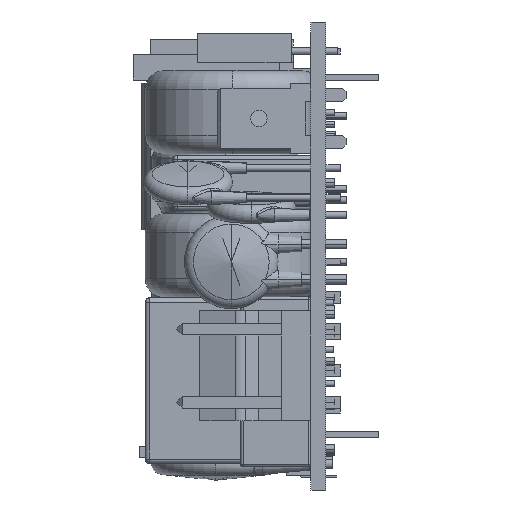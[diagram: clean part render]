
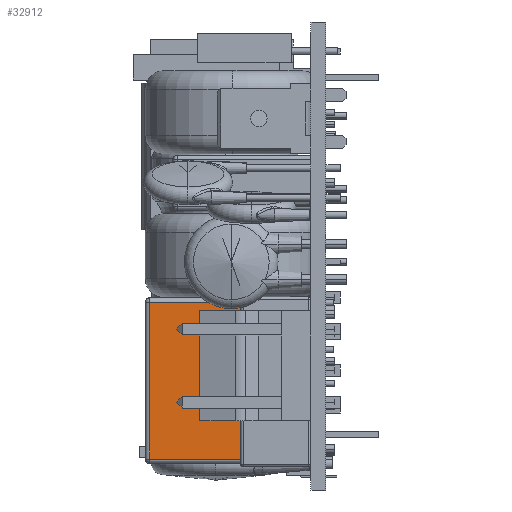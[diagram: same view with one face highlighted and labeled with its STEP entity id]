
A CAD part, left-side view. The second image highlights one B-rep face of the part: STEP entity #32912.
In plain terms, the highlighted planar face has unit normal (-1, 0, 0).
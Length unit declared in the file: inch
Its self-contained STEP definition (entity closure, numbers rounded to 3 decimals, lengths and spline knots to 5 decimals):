
#21564 = CARTESIAN_POINT ( 'NONE',  ( -0.1378, 0., -0.33465 ) ) ;
#21584 = DIRECTION ( 'NONE',  ( 0., 0., 1. ) ) ;
#21585 = VECTOR ( 'NONE', #21584, 39.37008 ) ;
#21586 = CARTESIAN_POINT ( 'NONE',  ( -0.1378, 0., -0.35433 ) ) ;
#21595 = LINE ( 'NONE', #21586, #21585 ) ;
#21597 = CARTESIAN_POINT ( 'NONE',  ( -0.1378, 0., 0.33465 ) ) ;
#22005 = CARTESIAN_POINT ( 'NONE',  ( -0.1378, 0.68898, 0.33465 ) ) ;
#22031 = CARTESIAN_POINT ( 'NONE',  ( -0.1378, 0.68898, -0.33465 ) ) ;
#22050 = PLANE ( 'NONE',  #22077 ) ;
#22077 = AXIS2_PLACEMENT_3D ( 'NONE', #22108, #22107, #22106 ) ;
#22079 = VECTOR ( 'NONE', #22146, 39.37008 ) ;
#22106 = DIRECTION ( 'NONE',  ( 0., 0., -1. ) ) ;
#22107 = DIRECTION ( 'NONE',  ( 1., 0., 0. ) ) ;
#22108 = CARTESIAN_POINT ( 'NONE',  ( -0.1378, 0.70866, -0.35433 ) ) ;
#22109 = CARTESIAN_POINT ( 'NONE',  ( -0.1378, 0.68898, -0.35433 ) ) ;
#22110 = LINE ( 'NONE', #22109, #22079 ) ;
#22124 = LINE ( 'NONE', #22153, #22152 ) ;
#22125 = FACE_OUTER_BOUND ( 'NONE', #32894, .T. ) ;
#22146 = DIRECTION ( 'NONE',  ( 0., 0., -1. ) ) ;
#22151 = DIRECTION ( 'NONE',  ( 0., 1., 0. ) ) ;
#22152 = VECTOR ( 'NONE', #22151, 39.37008 ) ;
#22153 = CARTESIAN_POINT ( 'NONE',  ( -0.1378, 0.70866, 0.33465 ) ) ;
#22369 = DIRECTION ( 'NONE',  ( 0., -1., 0. ) ) ;
#22370 = VECTOR ( 'NONE', #22369, 39.37008 ) ;
#22371 = CARTESIAN_POINT ( 'NONE',  ( -0.1378, 0.70866, -0.33465 ) ) ;
#22373 = LINE ( 'NONE', #22371, #22370 ) ;
#32743 = VERTEX_POINT ( 'NONE', #21564 ) ;
#32766 = EDGE_CURVE ( 'NONE', #32743, #32771, #21595, .T. ) ;
#32771 = VERTEX_POINT ( 'NONE', #21597 ) ;
#32892 = VERTEX_POINT ( 'NONE', #22005 ) ;
#32894 = EDGE_LOOP ( 'NONE', ( #32915, #32941, #32909, #32910 ) ) ;
#32896 = VERTEX_POINT ( 'NONE', #22031 ) ;
#32909 = ORIENTED_EDGE ( 'NONE', *, *, #32919, .T. ) ;
#32910 = ORIENTED_EDGE ( 'NONE', *, *, #32996, .T. ) ;
#32912 = ADVANCED_FACE ( 'NONE', ( #22125 ), #22050, .F. ) ;
#32914 = EDGE_CURVE ( 'NONE', #32771, #32892, #22124, .T. ) ;
#32915 = ORIENTED_EDGE ( 'NONE', *, *, #32766, .T. ) ;
#32919 = EDGE_CURVE ( 'NONE', #32892, #32896, #22110, .T. ) ;
#32941 = ORIENTED_EDGE ( 'NONE', *, *, #32914, .T. ) ;
#32996 = EDGE_CURVE ( 'NONE', #32896, #32743, #22373, .T. ) ;
